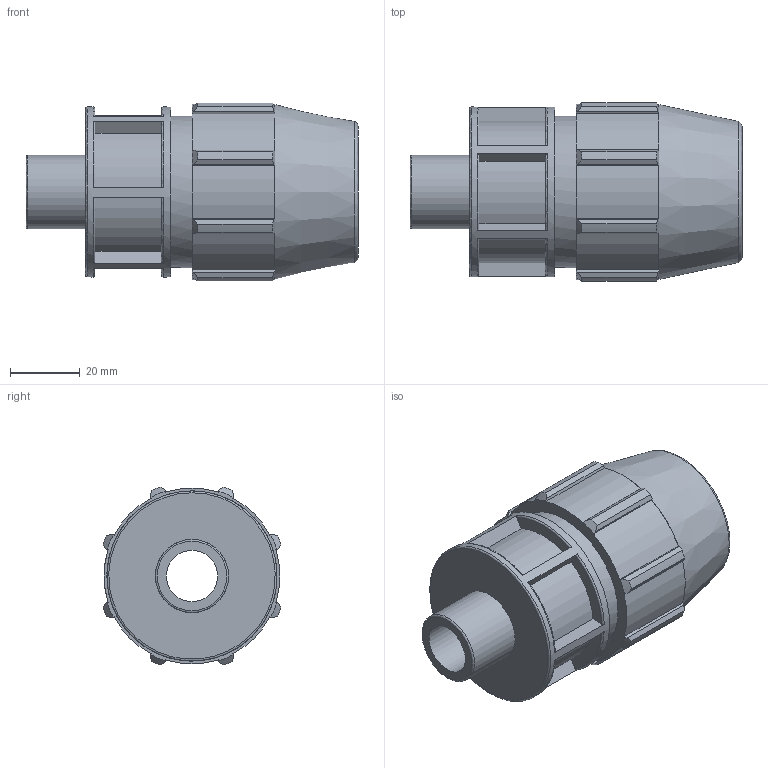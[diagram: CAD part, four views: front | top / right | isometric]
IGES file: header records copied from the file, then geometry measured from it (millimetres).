
Global section: file name: 0702M0007005.ipt; native system: Autodesk Inventor 2019; preprocessor: unknown; author: KIM; date: 20210826.124431; units: inch
Bounding box: 95 x 50.91 x 50.91 mm (x, y, z)
Volume: 91431.3 mm3; surface area: 25899.2 mm2
Topology: 1 solids, 1 shells, 117 faces, 321 edges, 216 vertices
Faces by surface type: plane 63, cylinder 25, revolution 19, cone 10
Full cylindrical faces by diameter (mm): 20.955 x1, 43.282 x1, 48.692 x1
